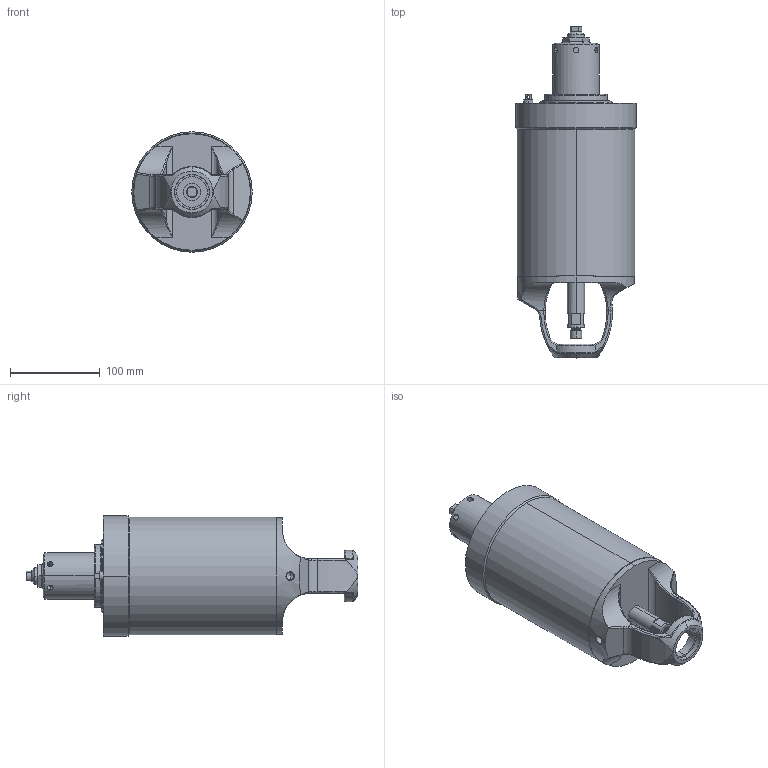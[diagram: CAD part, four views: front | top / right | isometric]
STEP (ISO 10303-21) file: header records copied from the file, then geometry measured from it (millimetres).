
FILE_DESCRIPTION (( 'STEP AP203' ), '1' );
FILE_NAME ('5in air to raise relief.STEP', '2010-08-30T19:34:55', ( 'kburns' ), ( 'Microsoft' ), 'SwSTEP 2.0', 'SolidWorks 2009', '' );
FILE_SCHEMA (( 'CONFIG_CONTROL_DESIGN' ));
Length unit declared in the file: millimetre
Products named in the file (1): 5in air to raise relief
Bounding box: 134.32 x 370.15 x 134.32 mm (x, y, z)
Volume: 3014721 mm3; surface area: 147691 mm2
Topology: 1 solids, 1 shells, 213 faces, 508 edges, 315 vertices
Faces by surface type: cylinder 72, plane 63, bspline 52, cone 26
Entity records: 20358 total; most frequent: CARTESIAN_POINT 15756, ORIENTED_EDGE 1004, DIRECTION 836, EDGE_CURVE 502, AXIS2_PLACEMENT_3D 335, VERTEX_POINT 315, EDGE_LOOP 243, FACE_OUTER_BOUND 213
